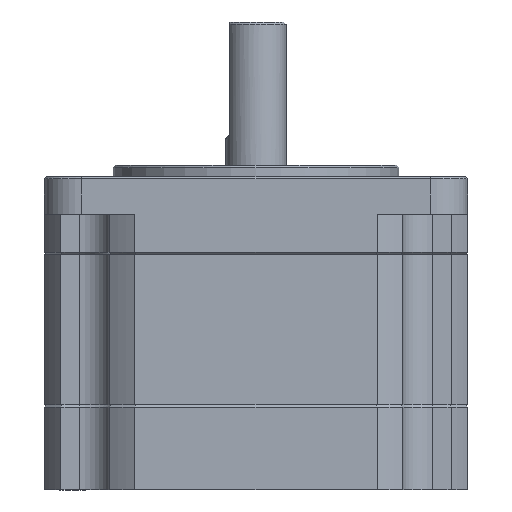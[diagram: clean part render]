
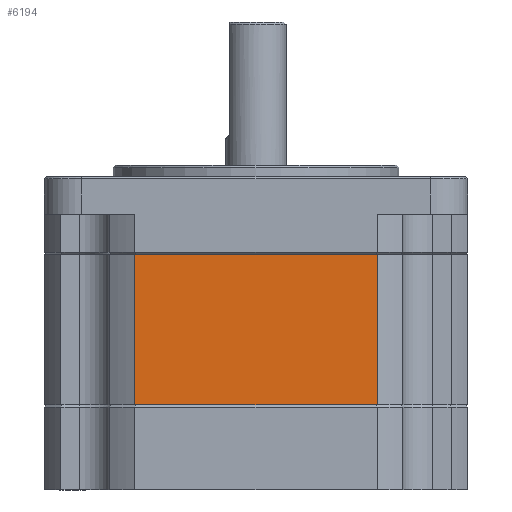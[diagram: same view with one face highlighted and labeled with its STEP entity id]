
A CAD part, front view. The second image highlights one B-rep face of the part: STEP entity #6194.
In plain terms, the highlighted planar face has unit normal (0, -1, 0).
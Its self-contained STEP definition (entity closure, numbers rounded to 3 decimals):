
#322 = LINE ( 'NONE', #8382, #16249 ) ;
#373 = EDGE_CURVE ( 'NONE', #5999, #2632, #1540, .T. ) ;
#405 = VERTEX_POINT ( 'NONE', #1363 ) ;
#1064 = VERTEX_POINT ( 'NONE', #16217 ) ;
#1363 = CARTESIAN_POINT ( 'NONE',  ( 16.156, -28.2, -20. ) ) ;
#1540 = LINE ( 'NONE', #11334, #17815 ) ;
#1613 = LINE ( 'NONE', #3338, #5179 ) ;
#1855 = FACE_OUTER_BOUND ( 'NONE', #8605, .T. ) ;
#1926 = DIRECTION ( 'NONE',  ( 1., 0., 0. ) ) ;
#2280 = EDGE_CURVE ( 'NONE', #2632, #405, #7410, .T. ) ;
#2482 = ORIENTED_EDGE ( 'NONE', *, *, #4333, .F. ) ;
#2632 = VERTEX_POINT ( 'NONE', #5299 ) ;
#2664 = VECTOR ( 'NONE', #1926, 1000. ) ;
#2891 = DIRECTION ( 'NONE',  ( -1., 0., 0. ) ) ;
#3314 = DIRECTION ( 'NONE',  ( 0., -1., 0. ) ) ;
#3338 = CARTESIAN_POINT ( 'NONE',  ( 16.156, -28.2, -20. ) ) ;
#4333 = EDGE_CURVE ( 'NONE', #1064, #405, #1613, .T. ) ;
#5179 = VECTOR ( 'NONE', #8833, 1000. ) ;
#5257 = CARTESIAN_POINT ( 'NONE',  ( -16.156, -28.2, 0. ) ) ;
#5299 = CARTESIAN_POINT ( 'NONE',  ( -16.156, -28.2, -20. ) ) ;
#5931 = DIRECTION ( 'NONE',  ( 0., 0., -1. ) ) ;
#5999 = VERTEX_POINT ( 'NONE', #5257 ) ;
#6194 = ADVANCED_FACE ( 'NONE', ( #1855 ), #15957, .T. ) ;
#7410 = LINE ( 'NONE', #10172, #2664 ) ;
#7445 = CARTESIAN_POINT ( 'NONE',  ( -16.156, -28.2, -20. ) ) ;
#7621 = DIRECTION ( 'NONE',  ( 0., 0., -1. ) ) ;
#8382 = CARTESIAN_POINT ( 'NONE',  ( -16.156, -28.2, 0. ) ) ;
#8605 = EDGE_LOOP ( 'NONE', ( #17733, #2482, #13730, #16948 ) ) ;
#8833 = DIRECTION ( 'NONE',  ( 0., 0., -1. ) ) ;
#10172 = CARTESIAN_POINT ( 'NONE',  ( 0., -28.2, -20. ) ) ;
#11334 = CARTESIAN_POINT ( 'NONE',  ( -16.156, -28.2, -20. ) ) ;
#13730 = ORIENTED_EDGE ( 'NONE', *, *, #17607, .T. ) ;
#15323 = AXIS2_PLACEMENT_3D ( 'NONE', #7445, #3314, #7621 ) ;
#15957 = PLANE ( 'NONE',  #15323 ) ;
#16217 = CARTESIAN_POINT ( 'NONE',  ( 16.156, -28.2, 0. ) ) ;
#16249 = VECTOR ( 'NONE', #2891, 1000. ) ;
#16948 = ORIENTED_EDGE ( 'NONE', *, *, #373, .T. ) ;
#17607 = EDGE_CURVE ( 'NONE', #1064, #5999, #322, .T. ) ;
#17733 = ORIENTED_EDGE ( 'NONE', *, *, #2280, .T. ) ;
#17815 = VECTOR ( 'NONE', #5931, 1000. ) ;
